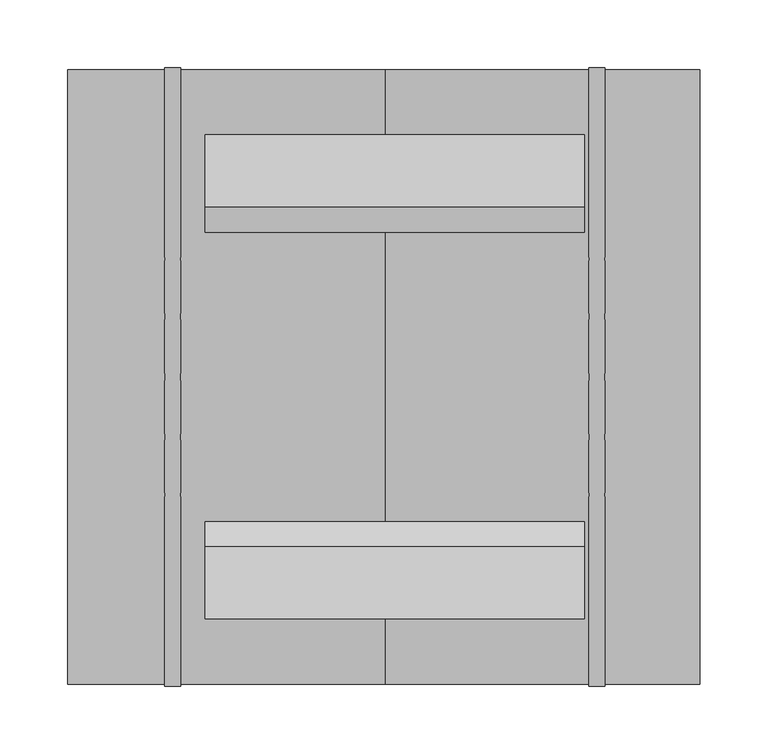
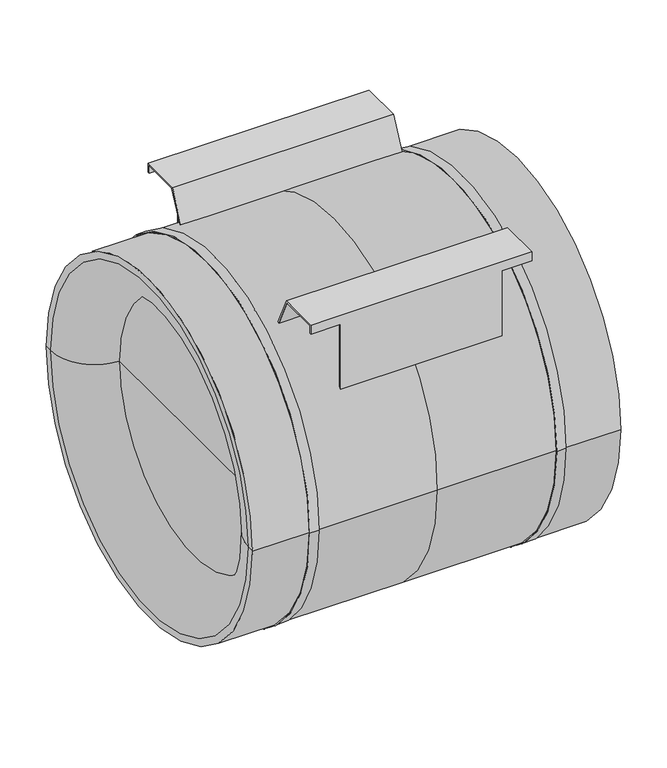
"""IFC4 building model written with IfcOpenShell, lengths in millimetres: unitary equipment geometry, VE-Wentylator-ParaForma-Harmann-JETTEC_EC-Nawiewny : 450/9300EC."""

from ifc_helpers import new_model, si_unit, point, frame, frame_2d, origin, place, context, project, spatial, polyline, circle_curve, ellipse_curve, trimmed, segment, composite_curve, outline, extrude, source, transform, mapped, element, save
from ifc_brep_helpers import plane_surface, cylinder_surface, revolved_surface, advanced_brep


def unitary_equipment_9b91302f(model_context):
    return source(origin(), model_context, "Body", "SolidModel", [
        extrude(outline(composite_curve([segment(polyline([(-45.5, -47.7), (-45.5, 47.7)]), True, "CONTINUOUS"), segment(trimmed(circle_curve(frame_2d((-40.5, 47.7)), 5.0), [point((-45.5, 47.7))], [point((-40.5, 52.7))], False, "CARTESIAN"), True, "CONTINUOUS"), segment(polyline([(-40.5, 52.7), (40.5, 52.7)]), True, "CONTINUOUS"), segment(trimmed(circle_curve(frame_2d((40.5, 47.7)), 5.0), [point((40.5, 52.7))], [point((45.5, 47.7))], False, "CARTESIAN"), True, "CONTINUOUS"), segment(polyline([(45.5, 47.7), (45.5, -47.7)]), True, "CONTINUOUS"), segment(trimmed(circle_curve(frame_2d((40.5, -47.7)), 5.0), [point((45.5, -47.7))], [point((40.5, -52.7))], False, "CARTESIAN"), True, "CONTINUOUS"), segment(polyline([(40.5, -52.7), (-40.5, -52.7)]), True, "CONTINUOUS"), segment(trimmed(circle_curve(frame_2d((-40.5, -47.7)), 5.0), [point((-40.5, -52.7))], [point((-45.5, -47.7))], False, "CARTESIAN"), True, "CONTINUOUS")], self_intersect=False)), frame((0.0, -55.0, 0.0), z_axis=(0.0, 1.0, 0.0), x_axis=(0.0, 0.0, 1.0)), (0.0, 0.0, 1.0), 45.0),
        advanced_brep(
        [(147.5, 178.5, 226.5), (147.5, 178.5, 238.5), (147.5, 125.2, 238.5), (147.5, 106.8284471, 199.7246427), (147.5, 108.5903171, 198.7722139), (147.5, 126.4655365, 236.5), (147.5, 176.5, 236.5), (147.5, 176.5, 226.5), (110.0, 176.5, 226.5), (110.0, 178.5, 226.5), (-132.5, 176.5, 236.5), (-132.5, 176.5, 226.5), (-95.0, 176.5, 226.5), (-95.0, 176.5, 141.9506957), (110.0, 176.5, 141.9506957), (-132.5, 126.4655365, 236.5), (110.0, 108.5903171, 198.7722139), (-95.0, 108.5903171, 198.7722139), (-132.5, 108.5903171, 198.7722139), (-132.5, 125.2, 238.5), (-132.5, 106.8284471, 199.7246427), (-95.0, 106.8284471, 199.7246427), (110.0, 106.8284471, 199.7246427), (-132.5, 178.5, 238.5), (110.0, 178.5, 139.4274005), (-95.0, 178.5, 139.4274005), (-95.0, 178.5, 226.5), (-132.5, 178.5, 226.5)],
        [
            (0, 1),
            (1, 2),
            (2, 3),
            (3, 4, circle_curve(frame((147.5, 0.0, 0.0), z_axis=(-1.0, 0.0, 0.0), x_axis=(0.0, 1.0, 0.0)), 226.5)),
            (4, 5),
            (5, 6),
            (6, 7),
            (7, 0),
            (7, 8),
            (8, 9),
            (9, 0),
            (6, 10),
            (10, 11),
            (11, 12),
            (12, 13),
            (13, 14),
            (14, 8),
            (5, 15),
            (15, 10),
            (4, 16),
            (16, 17),
            (17, 18),
            (18, 15),
            (19, 20),
            (20, 21),
            (21, 22),
            (22, 3),
            (2, 19),
            (1, 23),
            (23, 19),
            (9, 24),
            (24, 25),
            (25, 26),
            (26, 27),
            (27, 23),
            (20, 18, circle_curve(frame((-132.5, 0.0, 0.0), z_axis=(-1.0, 0.0, 0.0), x_axis=(0.0, 1.0, 0.0)), 226.5)),
            (17, 21, circle_curve(frame((-95.0, 0.0, 0.0), z_axis=(1.0, 0.0, 0.0), x_axis=(0.0, 1.0, 0.0)), 226.5)),
            (22, 16, circle_curve(frame((110.0, 0.0, 0.0), z_axis=(-1.0, 0.0, 0.0), x_axis=(0.0, 1.0, 0.0)), 226.5)),
            (25, 13, circle_curve(frame((-95.0, 0.0, 0.0), z_axis=(1.0, 0.0, 0.0), x_axis=(0.0, 1.0, 0.0)), 226.5)),
            (12, 26),
            (14, 24, circle_curve(frame((110.0, 0.0, 0.0), z_axis=(-1.0, 0.0, 0.0), x_axis=(0.0, 1.0, 0.0)), 226.5)),
            (27, 11),
        ],
        [
            plane_surface(frame((147.5, 0.0, 0.0), z_axis=(1.0, 0.0, 0.0), x_axis=(0.0, 0.0, 1.0))),
            plane_surface(frame((110.0, 178.5, 226.5), z_axis=(0.0, 0.0, -1.0), x_axis=(1.0, 0.0, 0.0))),
            plane_surface(frame((110.0, 176.5, 226.5), z_axis=(0.0, -1.0, 0.0), x_axis=(1.0, 0.0, 0.0))),
            plane_surface(frame((110.0, 176.5, 236.5), z_axis=(0.0, 0.0, -1.0), x_axis=(1.0, 0.0, 0.0))),
            plane_surface(frame((110.0, 126.4655365, 236.5), z_axis=(0.0, 0.9036992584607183, -0.4281677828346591), x_axis=(1.0, 0.0, 0.0))),
            plane_surface(frame((110.0, 12.2, 0.0), z_axis=(0.0, -0.9036992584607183, 0.4281677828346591), x_axis=(1.0, 0.0, 0.0))),
            plane_surface(frame((110.0, 125.2, 238.5), z_axis=(0.0, 0.0, 1.0), x_axis=(1.0, 0.0, 0.0))),
            plane_surface(frame((110.0, 178.5, 238.5), z_axis=(0.0, 1.0, 0.0), x_axis=(1.0, 0.0, 0.0))),
            revolved_surface(polyline([(-132.5, 226.5, 0.0), (-95.0, 226.5, 0.0)]), (-132.5, 0.0, 0.0), (-1.0, 0.0, 0.0)),
            revolved_surface(polyline([(110.0, 226.5, 0.0), (147.5, 226.5, 0.0)]), (110.0, 0.0, 0.0), (-1.0, 0.0, 0.0)),
            plane_surface(frame((-95.0, 0.0, 0.0), z_axis=(-1.0, 0.0, 0.0), x_axis=(0.0, 0.0, 1.0))),
            plane_surface(frame((110.0, 0.0, 0.0), z_axis=(1.0, 0.0, 0.0), x_axis=(0.0, 0.0, 1.0))),
            revolved_surface(polyline([(-95.0, 226.5, 0.0), (110.0, 226.5, 0.0)]), (-95.0, 0.0, 0.0), (-1.0, 0.0, 0.0)),
            plane_surface(frame((-132.5, 0.0, 0.0), z_axis=(-1.0, 0.0, 0.0), x_axis=(0.0, 0.0, 1.0))),
            plane_surface(frame((-132.5, 178.5, 226.5), z_axis=(0.0, 0.0, -1.0), x_axis=(1.0, 0.0, 0.0))),
        ],
        [
            (0, [[1, 2, 3, 4, 5, 6, 7, 8]]),
            (1, [[-8, 9, 10, 11]]),
            (2, [[-7, 12, 13, 14, 15, 16, 17, -9]]),
            (3, [[-12, -6, 18, 19]]),
            (4, [[-18, -5, 20, 21, 22, 23]]),
            (5, [[24, 25, 26, 27, -3, 28]]),
            (6, [[-28, -2, 29, 30]]),
            (7, [[-29, -1, -11, 31, 32, 33, 34, 35]]),
            (8, [[36, -22, 37, -25]]),
            (9, [[-4, -27, 38, -20]]),
            (10, [[39, -15, 40, -33]]),
            (11, [[41, -31, -10, -17]]),
            (12, [[-21, -38, -26, -37]]),
            (12, [[-39, -32, -41, -16]]),
            (13, [[42, -13, -19, -23, -36, -24, -30, -35]]),
            (14, [[-42, -34, -40, -14]]),
        ],
    ),
        advanced_brep(
        [(147.5, -125.2, 238.5), (147.5, -178.5, 238.5), (147.5, -178.5, 226.5), (147.5, -176.5, 226.5), (147.5, -176.5, 236.5), (147.5, -126.4655365, 236.5), (147.5, -108.5903171, 198.7722139), (147.5, -106.8284471, 199.7246427), (-132.5, -126.4655365, 236.5), (-132.5, -108.5903171, 198.7722139), (-95.0, -108.5903171, 198.7722139), (110.0, -108.5903171, 198.7722139), (-132.5, -176.5, 236.5), (110.0, -176.5, 226.5), (110.0, -176.5, 141.9506957), (-95.0, -176.5, 141.9506957), (-95.0, -176.5, 226.5), (-132.5, -176.5, 226.5), (110.0, -178.5, 226.5), (-132.5, -178.5, 238.5), (-132.5, -178.5, 226.5), (-95.0, -178.5, 226.5), (-95.0, -178.5, 139.4274005), (110.0, -178.5, 139.4274005), (-132.5, -125.2, 238.5), (110.0, -106.8284471, 199.7246427), (-95.0, -106.8284471, 199.7246427), (-132.5, -106.8284471, 199.7246427)],
        [
            (0, 1),
            (1, 2),
            (2, 3),
            (3, 4),
            (4, 5),
            (5, 6),
            (6, 7, circle_curve(frame((147.5, 0.0, 0.0), z_axis=(-1.0, 0.0, 0.0), x_axis=(0.0, 1.0, 0.0)), 226.5)),
            (7, 0),
            (8, 9),
            (9, 10),
            (10, 11),
            (11, 6),
            (5, 8),
            (4, 12),
            (12, 8),
            (3, 13),
            (13, 14),
            (14, 15),
            (15, 16),
            (16, 17),
            (17, 12),
            (2, 18),
            (18, 13),
            (1, 19),
            (19, 20),
            (20, 21),
            (21, 22),
            (22, 23),
            (23, 18),
            (0, 24),
            (24, 19),
            (7, 25),
            (25, 26),
            (26, 27),
            (27, 24),
            (9, 27, circle_curve(frame((-132.5, 0.0, 0.0), z_axis=(-1.0, 0.0, 0.0), x_axis=(0.0, 1.0, 0.0)), 226.5)),
            (26, 10, circle_curve(frame((-95.0, 0.0, 0.0), z_axis=(1.0, 0.0, 0.0), x_axis=(0.0, 1.0, 0.0)), 226.5)),
            (11, 25, circle_curve(frame((110.0, 0.0, 0.0), z_axis=(-1.0, 0.0, 0.0), x_axis=(0.0, 1.0, 0.0)), 226.5)),
            (15, 22, circle_curve(frame((-95.0, 0.0, 0.0), z_axis=(1.0, 0.0, 0.0), x_axis=(0.0, 1.0, 0.0)), 226.5)),
            (21, 16),
            (23, 14, circle_curve(frame((110.0, 0.0, 0.0), z_axis=(-1.0, 0.0, 0.0), x_axis=(0.0, 1.0, 0.0)), 226.5)),
            (17, 20),
        ],
        [
            plane_surface(frame((147.5, 0.0, 0.0), z_axis=(1.0, 0.0, 0.0), x_axis=(0.0, 0.0, 1.0))),
            plane_surface(frame((110.0, -13.4655365, -2.0), z_axis=(0.0, -0.9036992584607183, -0.4281677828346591), x_axis=(1.0, 0.0, 0.0))),
            plane_surface(frame((110.0, -126.4655365, 236.5), z_axis=(0.0, 0.0, -1.0), x_axis=(1.0, 0.0, 0.0))),
            plane_surface(frame((110.0, -176.5, 236.5), z_axis=(0.0, 1.0, 0.0), x_axis=(1.0, 0.0, 0.0))),
            plane_surface(frame((110.0, -176.5, 226.5), z_axis=(0.0, 0.0, -1.0), x_axis=(1.0, 0.0, 0.0))),
            plane_surface(frame((110.0, -178.5, 226.5), z_axis=(0.0, -1.0, 0.0), x_axis=(1.0, 0.0, 0.0))),
            plane_surface(frame((110.0, -178.5, 238.5), z_axis=(0.0, 0.0, 1.0), x_axis=(1.0, 0.0, 0.0))),
            plane_surface(frame((110.0, -125.2, 238.5), z_axis=(0.0, 0.9036992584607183, 0.4281677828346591), x_axis=(1.0, 0.0, 0.0))),
            revolved_surface(polyline([(-132.5, 226.5, 0.0), (-95.0, 226.5, 0.0)]), (-132.5, 0.0, 0.0), (-1.0, 0.0, 0.0)),
            revolved_surface(polyline([(110.0, 226.5, 0.0), (147.5, 226.5, 0.0)]), (110.0, 0.0, 0.0), (-1.0, 0.0, 0.0)),
            plane_surface(frame((-95.0, 0.0, 0.0), z_axis=(-1.0, 0.0, 0.0), x_axis=(0.0, 0.0, 1.0))),
            plane_surface(frame((110.0, 0.0, 0.0), z_axis=(1.0, 0.0, 0.0), x_axis=(0.0, 0.0, 1.0))),
            revolved_surface(polyline([(-95.0, 226.5, 0.0), (110.0, 226.5, 0.0)]), (-95.0, 0.0, 0.0), (-1.0, 0.0, 0.0)),
            plane_surface(frame((-132.5, 0.0, 0.0), z_axis=(-1.0, 0.0, 0.0), x_axis=(0.0, 0.0, 1.0))),
            plane_surface(frame((-132.5, -176.5, 226.5), z_axis=(0.0, 0.0, -1.0), x_axis=(1.0, 0.0, 0.0))),
        ],
        [
            (0, [[1, 2, 3, 4, 5, 6, 7, 8]]),
            (1, [[9, 10, 11, 12, -6, 13]]),
            (2, [[-13, -5, 14, 15]]),
            (3, [[-14, -4, 16, 17, 18, 19, 20, 21]]),
            (4, [[-3, 22, 23, -16]]),
            (5, [[-2, 24, 25, 26, 27, 28, 29, -22]]),
            (6, [[-24, -1, 30, 31]]),
            (7, [[-30, -8, 32, 33, 34, 35]]),
            (8, [[36, -34, 37, -10]]),
            (9, [[-7, -12, 38, -32]]),
            (10, [[39, -27, 40, -19]]),
            (11, [[41, -17, -23, -29]]),
            (12, [[-11, -37, -33, -38]]),
            (12, [[-39, -18, -41, -28]]),
            (13, [[-15, -21, 42, -25, -31, -35, -36, -9]]),
            (14, [[-42, -20, -40, -26]]),
        ],
    ),
        advanced_brep(
        [(-150.5, 226.5, 0.0), (0.0, 226.5, 0.0), (0.0, -226.5, 0.0), (-150.5, -226.5, 0.0), (-234.0, -226.5, 0.0), (-234.0, 226.5, 0.0), (-162.5, 226.5, 0.0), (-162.5, -226.5, 0.0), (-234.0, -217.5, 0.0), (-234.0, 217.5, 0.0), (-178.5, -162.0, 0.0), (-178.5, 162.0, 0.0), (-178.5, 0.0, 0.0), (232.5, -226.5, 0.0), (232.5, 226.5, 0.0), (232.5, 0.0, 0.0), (162.5, -226.5, 0.0), (162.5, 226.5, 0.0), (150.5, 226.5, 0.0), (150.5, -226.5, 0.0), (-150.5, -228.0, 0.0), (-150.5, 228.0, 0.0), (-162.5, -228.0, 0.0), (-162.5, 228.0, 0.0), (162.5, -228.0, 0.0), (162.5, 228.0, 0.0), (150.5, -228.0, 0.0), (150.5, 228.0, 0.0)],
        [
            (0, 1),
            (1, 2, circle_curve(frame((0.0, 0.0, 0.0), z_axis=(-1.0, 0.0, 0.0), x_axis=(0.0, 1.0, 0.0)), 226.5)),
            (2, 3),
            (3, 0, circle_curve(frame((-150.5, 0.0, 0.0), z_axis=(1.0, 0.0, 0.0), x_axis=(0.0, 1.0, 0.0)), 226.5)),
            (0, 3, circle_curve(frame((-150.5, 0.0, 0.0), z_axis=(1.0, 0.0, 0.0), x_axis=(0.0, 1.0, 0.0)), 226.5)),
            (2, 1, circle_curve(frame((0.0, 0.0, 0.0), z_axis=(-1.0, 0.0, 0.0), x_axis=(0.0, 1.0, 0.0)), 226.5)),
            (4, 5, circle_curve(frame((-234.0, 0.0, 0.0), z_axis=(1.0, 0.0, 0.0), x_axis=(0.0, 1.0, 0.0)), 226.5)),
            (5, 6),
            (6, 7, circle_curve(frame((-162.5, 0.0, 0.0), z_axis=(-1.0, 0.0, 0.0), x_axis=(0.0, 1.0, 0.0)), 226.5)),
            (7, 4),
            (5, 4, circle_curve(frame((-234.0, 0.0, 0.0), z_axis=(1.0, 0.0, 0.0), x_axis=(0.0, 1.0, 0.0)), 226.5)),
            (7, 6, circle_curve(frame((-162.5, 0.0, 0.0), z_axis=(-1.0, 0.0, 0.0), x_axis=(0.0, 1.0, 0.0)), 226.5)),
            (4, 8),
            (8, 9, circle_curve(frame((-234.0, 0.0, 0.0), z_axis=(1.0, 0.0, 0.0), x_axis=(0.0, 1.0, 0.0)), 217.5)),
            (9, 5),
            (9, 8, circle_curve(frame((-234.0, 0.0, 0.0), z_axis=(1.0, 0.0, 0.0), x_axis=(0.0, 1.0, 0.0)), 217.5)),
            (8, 10, circle_curve(frame((-178.5, -217.5, 0.0), z_axis=(0.0, 0.0, -1.0), x_axis=(1.0, 0.0, 0.0)), 55.5)),
            (10, 11, circle_curve(frame((-178.5, 0.0, 0.0), z_axis=(1.0, 0.0, 0.0), x_axis=(0.0, 1.0, 0.0)), 162.0)),
            (11, 9, circle_curve(frame((-178.5, 217.5, 0.0), z_axis=(0.0, 0.0, -1.0), x_axis=(1.0, 0.0, 0.0)), 55.5)),
            (11, 10, circle_curve(frame((-178.5, 0.0, 0.0), z_axis=(1.0, 0.0, 0.0), x_axis=(0.0, 1.0, 0.0)), 162.0)),
            (10, 12),
            (12, 11),
            (13, 14, circle_curve(frame((232.5, 0.0, 0.0), z_axis=(1.0, 0.0, 0.0), x_axis=(0.0, 1.0, 0.0)), 226.5)),
            (14, 15),
            (15, 13),
            (14, 13, circle_curve(frame((232.5, 0.0, 0.0), z_axis=(1.0, 0.0, 0.0), x_axis=(0.0, 1.0, 0.0)), 226.5)),
            (13, 16),
            (16, 17, circle_curve(frame((162.5, 0.0, 0.0), z_axis=(1.0, 0.0, 0.0), x_axis=(0.0, 1.0, 0.0)), 226.5)),
            (17, 14),
            (17, 16, circle_curve(frame((162.5, 0.0, 0.0), z_axis=(1.0, 0.0, 0.0), x_axis=(0.0, 1.0, 0.0)), 226.5)),
            (1, 18),
            (18, 19, circle_curve(frame((150.5, 0.0, 0.0), z_axis=(-1.0, 0.0, 0.0), x_axis=(0.0, 1.0, 0.0)), 226.5)),
            (19, 2),
            (19, 18, circle_curve(frame((150.5, 0.0, 0.0), z_axis=(-1.0, 0.0, 0.0), x_axis=(0.0, 1.0, 0.0)), 226.5)),
            (20, 21, circle_curve(frame((-150.5, 0.0, 0.0), z_axis=(1.0, 0.0, 0.0), x_axis=(0.0, 1.0, 0.0)), 228.0)),
            (21, 0),
            (3, 20),
            (21, 20, circle_curve(frame((-150.5, 0.0, 0.0), z_axis=(1.0, 0.0, 0.0), x_axis=(0.0, 1.0, 0.0)), 228.0)),
            (20, 22),
            (22, 23, circle_curve(frame((-162.5, 0.0, 0.0), z_axis=(1.0, 0.0, 0.0), x_axis=(0.0, 1.0, 0.0)), 228.0)),
            (23, 21),
            (23, 22, circle_curve(frame((-162.5, 0.0, 0.0), z_axis=(1.0, 0.0, 0.0), x_axis=(0.0, 1.0, 0.0)), 228.0)),
            (22, 7),
            (6, 23),
            (24, 25, circle_curve(frame((162.5, 0.0, 0.0), z_axis=(1.0, 0.0, 0.0), x_axis=(0.0, 1.0, 0.0)), 228.0)),
            (25, 17),
            (16, 24),
            (25, 24, circle_curve(frame((162.5, 0.0, 0.0), z_axis=(1.0, 0.0, 0.0), x_axis=(0.0, 1.0, 0.0)), 228.0)),
            (24, 26),
            (26, 27, circle_curve(frame((150.5, 0.0, 0.0), z_axis=(1.0, 0.0, 0.0), x_axis=(0.0, 1.0, 0.0)), 228.0)),
            (27, 25),
            (27, 26, circle_curve(frame((150.5, 0.0, 0.0), z_axis=(1.0, 0.0, 0.0), x_axis=(0.0, 1.0, 0.0)), 228.0)),
            (26, 19),
            (18, 27),
        ],
        [
            cylinder_surface(frame((-178.5, 0.0, 0.0), z_axis=(-1.0, 0.0, 0.0), x_axis=(0.0, 1.0, 0.0)), 226.5),
            plane_surface(frame((-234.0, 0.0, 0.0), z_axis=(-1.0, 0.0, 0.0), x_axis=(0.0, 1.0, 0.0))),
            revolved_surface(trimmed(ellipse_curve(frame((-178.5, 217.5, 0.0), z_axis=(0.0, 0.0, 1.0), x_axis=(1.0, 0.0, 0.0)), 55.5, 55.5), [point((-234.0, 217.5, 0.0))], [point((-178.5, 162.0, 0.0))], True, "CARTESIAN"), (-178.5, 0.0, 0.0), (-1.0, 0.0, 0.0)),
            plane_surface(frame((-178.5, 0.0, 0.0), z_axis=(-1.0, 0.0, 0.0), x_axis=(0.0, 1.0, 0.0))),
            plane_surface(frame((232.5, 0.0, 0.0), z_axis=(1.0, 0.0, 0.0), x_axis=(0.0, 1.0, 0.0))),
            cylinder_surface(frame((0.0, 0.0, 0.0), z_axis=(-1.0, 0.0, 0.0), x_axis=(0.0, 1.0, 0.0)), 226.5),
            plane_surface(frame((-150.5, 0.0, 0.0), z_axis=(1.0, 0.0, 0.0), x_axis=(0.0, 1.0, 0.0))),
            cylinder_surface(frame((-162.5, 0.0, 0.0), z_axis=(-1.0, 0.0, 0.0), x_axis=(0.0, 1.0, 0.0)), 228.0),
            plane_surface(frame((-162.5, 0.0, 0.0), z_axis=(-1.0, 0.0, 0.0), x_axis=(0.0, 1.0, 0.0))),
            plane_surface(frame((162.5, 0.0, 0.0), z_axis=(1.0, 0.0, 0.0), x_axis=(0.0, 1.0, 0.0))),
            plane_surface(frame((150.5, 0.0, 0.0), z_axis=(-1.0, 0.0, 0.0), x_axis=(0.0, 1.0, 0.0))),
        ],
        [
            (0, [[1, 2, 3, 4]]),
            (0, [[-1, 5, -3, 6]]),
            (0, [[7, 8, 9, 10]]),
            (0, [[-8, 11, -10, 12]]),
            (1, [[-7, 13, 14, 15]]),
            (1, [[-11, -15, 16, -13]]),
            (2, [[-14, 17, 18, 19]]),
            (2, [[-16, -19, 20, -17]]),
            (3, [[-18, 21, 22]]),
            (3, [[-20, -22, -21]]),
            (4, [[23, 24, 25]]),
            (4, [[-24, 26, -25]]),
            (5, [[-23, 27, 28, 29]]),
            (5, [[-26, -29, 30, -27]]),
            (5, [[31, 32, 33, -2]]),
            (5, [[-31, -6, -33, 34]]),
            (6, [[35, 36, -4, 37]]),
            (6, [[38, -37, -5, -36]]),
            (7, [[-35, 39, 40, 41]]),
            (7, [[-38, -41, 42, -39]]),
            (8, [[-40, 43, -9, 44]]),
            (8, [[-42, -44, -12, -43]]),
            (9, [[45, 46, -28, 47]]),
            (9, [[48, -47, -30, -46]]),
            (7, [[-45, 49, 50, 51]]),
            (7, [[-48, -51, 52, -49]]),
            (10, [[-50, 53, -32, 54]]),
            (10, [[-52, -54, -34, -53]]),
        ],
    ),
    ])


if __name__ == "__main__":
    model = new_model("IFC4")
    model_context = context("Model", 3, world=origin())
    ifc_project = project(units=[si_unit("LENGTHUNIT", "METRE", prefix="MILLI")], contexts=[model_context])
    site = spatial("IfcSite", under=ifc_project)
    building = spatial("IfcBuilding", under=site)
    placement = place(None, origin())
    unitary_equipment_shape = unitary_equipment_9b91302f(model_context)
    element("IfcUnitaryEquipment", 1, ObjectType="VE-Wentylator-ParaForma-Harmann-JETTEC_EC-Nawiewny : 450/9300EC", at=placement, inside=building, context=model_context, shape_type="MappedRepresentation", body=[
        mapped(unitary_equipment_shape, transform((0.0, 0.0, 0.0), x_axis=(1.0, 0.0, 0.0), y_axis=(0.0, 1.0, 0.0), z_axis=(0.0, 0.0, 1.0))),
    ])
    save(model, "model.ifc")
